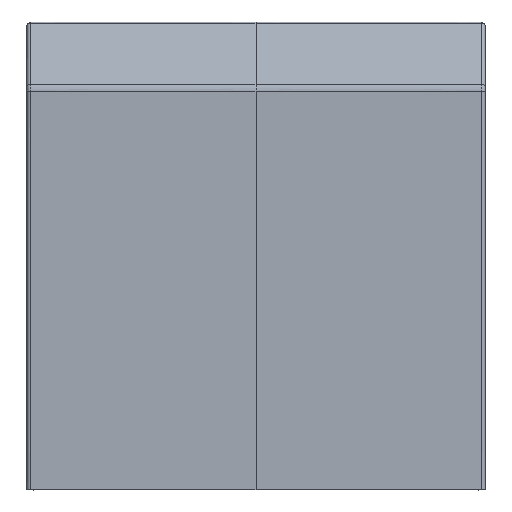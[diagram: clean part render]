
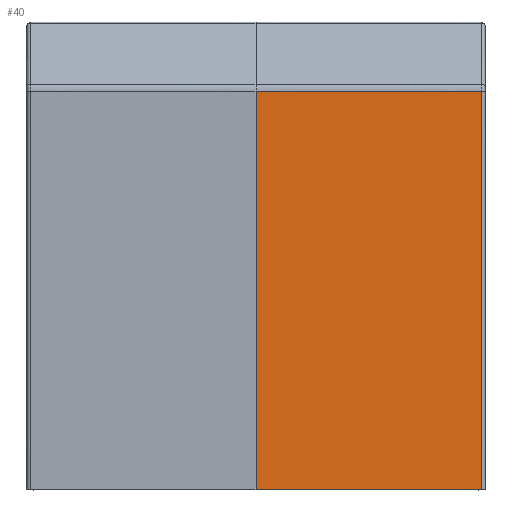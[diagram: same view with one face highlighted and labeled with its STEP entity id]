
A CAD part, front view. The second image highlights one B-rep face of the part: STEP entity #40.
In plain terms, the highlighted free-form (B-spline) face has degree [3, 3] with [4, 4] control points.
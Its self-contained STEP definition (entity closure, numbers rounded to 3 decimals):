
#40=ADVANCED_FACE('',(#196),#2311,.T.);
#196=FACE_OUTER_BOUND('',#352,.T.);
#352=EDGE_LOOP('',(#508,#509,#510,#511));
#508=ORIENTED_EDGE('',*,*,#1258,.T.);
#509=ORIENTED_EDGE('',*,*,#1257,.T.);
#510=ORIENTED_EDGE('',*,*,#1256,.F.);
#511=ORIENTED_EDGE('',*,*,#1259,.T.);
#1256=EDGE_CURVE('',#2007,#2006,#1759,.T.);
#1257=EDGE_CURVE('',#2008,#2006,#1760,.T.);
#1258=EDGE_CURVE('',#2009,#2008,#1761,.T.);
#1259=EDGE_CURVE('',#2007,#2009,#1762,.T.);
#1759=(
BOUNDED_CURVE()
B_SPLINE_CURVE(3,(#3661,#3662,#3663,#3664),.UNSPECIFIED.,.F.,.F.)
B_SPLINE_CURVE_WITH_KNOTS((4,4),(0.,209.54),.UNSPECIFIED.)
CURVE()
GEOMETRIC_REPRESENTATION_ITEM()
RATIONAL_B_SPLINE_CURVE((1.,1.,1.,1.))
REPRESENTATION_ITEM('')
);
#1760=(
BOUNDED_CURVE()
B_SPLINE_CURVE(3,(#3665,#3666,#3667,#3668),.UNSPECIFIED.,.F.,.F.)
B_SPLINE_CURVE_WITH_KNOTS((4,4),(-118.5,0.),.UNSPECIFIED.)
CURVE()
GEOMETRIC_REPRESENTATION_ITEM()
RATIONAL_B_SPLINE_CURVE((1.,1.,1.,1.))
REPRESENTATION_ITEM('')
);
#1761=(
BOUNDED_CURVE()
B_SPLINE_CURVE(3,(#3669,#3670,#3671,#3672),.UNSPECIFIED.,.F.,.F.)
B_SPLINE_CURVE_WITH_KNOTS((4,4),(0.,209.54),.UNSPECIFIED.)
CURVE()
GEOMETRIC_REPRESENTATION_ITEM()
RATIONAL_B_SPLINE_CURVE((1.,1.,1.,1.))
REPRESENTATION_ITEM('')
);
#1762=(
BOUNDED_CURVE()
B_SPLINE_CURVE(3,(#3673,#3674,#3675,#3676),.UNSPECIFIED.,.F.,.F.)
B_SPLINE_CURVE_WITH_KNOTS((4,4),(-118.5,0.),.UNSPECIFIED.)
CURVE()
GEOMETRIC_REPRESENTATION_ITEM()
RATIONAL_B_SPLINE_CURVE((1.,1.,1.,1.))
REPRESENTATION_ITEM('')
);
#2006=VERTEX_POINT('',#3548);
#2007=VERTEX_POINT('',#3549);
#2008=VERTEX_POINT('',#3550);
#2009=VERTEX_POINT('',#3551);
#2311=(
BOUNDED_SURFACE()
B_SPLINE_SURFACE(3,3,((#2510,#2511,#2512,#2513),(#2514,#2515,#2516,#2517),
(#2518,#2519,#2520,#2521),(#2522,#2523,#2524,#2525)),.UNSPECIFIED.,.F.,.F.,
 .F.)
B_SPLINE_SURFACE_WITH_KNOTS((4,4),(4,4),(0.,209.54),(0.,118.5),
 .UNSPECIFIED.)
GEOMETRIC_REPRESENTATION_ITEM()
RATIONAL_B_SPLINE_SURFACE(((1.,1.,1.,1.),(1.,1.,1.,1.),(1.,1.,1.,1.),(1.,
1.,1.,1.)))
REPRESENTATION_ITEM('')
SURFACE()
);
#2510=CARTESIAN_POINT('',(0.,-60.399,84.54));
#2511=CARTESIAN_POINT('',(39.5,-60.399,84.54));
#2512=CARTESIAN_POINT('',(79.,-60.399,84.54));
#2513=CARTESIAN_POINT('',(118.5,-60.399,84.54));
#2514=CARTESIAN_POINT('',(0.,-60.399,14.693));
#2515=CARTESIAN_POINT('',(39.5,-60.399,14.693));
#2516=CARTESIAN_POINT('',(79.,-60.399,14.693));
#2517=CARTESIAN_POINT('',(118.5,-60.399,14.693));
#2518=CARTESIAN_POINT('',(0.,-60.399,-55.153));
#2519=CARTESIAN_POINT('',(39.5,-60.399,-55.153));
#2520=CARTESIAN_POINT('',(79.,-60.399,-55.153));
#2521=CARTESIAN_POINT('',(118.5,-60.399,-55.153));
#2522=CARTESIAN_POINT('',(0.,-60.399,-125.));
#2523=CARTESIAN_POINT('',(39.5,-60.399,-125.));
#2524=CARTESIAN_POINT('',(79.,-60.399,-125.));
#2525=CARTESIAN_POINT('',(118.5,-60.399,-125.));
#3548=CARTESIAN_POINT('',(118.5,-60.399,-125.));
#3549=CARTESIAN_POINT('',(118.5,-60.399,84.54));
#3550=CARTESIAN_POINT('',(0.,-60.399,-125.));
#3551=CARTESIAN_POINT('',(0.,-60.399,84.54));
#3661=CARTESIAN_POINT('',(118.5,-60.399,84.54));
#3662=CARTESIAN_POINT('',(118.5,-60.399,14.693));
#3663=CARTESIAN_POINT('',(118.5,-60.399,-55.153));
#3664=CARTESIAN_POINT('',(118.5,-60.399,-125.));
#3665=CARTESIAN_POINT('',(0.,-60.399,-125.));
#3666=CARTESIAN_POINT('',(39.5,-60.399,-125.));
#3667=CARTESIAN_POINT('',(79.,-60.399,-125.));
#3668=CARTESIAN_POINT('',(118.5,-60.399,-125.));
#3669=CARTESIAN_POINT('',(0.,-60.399,84.54));
#3670=CARTESIAN_POINT('',(0.,-60.399,14.693));
#3671=CARTESIAN_POINT('',(0.,-60.399,-55.153));
#3672=CARTESIAN_POINT('',(0.,-60.399,-125.));
#3673=CARTESIAN_POINT('',(118.5,-60.399,84.54));
#3674=CARTESIAN_POINT('',(79.,-60.399,84.54));
#3675=CARTESIAN_POINT('',(39.5,-60.399,84.54));
#3676=CARTESIAN_POINT('',(0.,-60.399,84.54));
